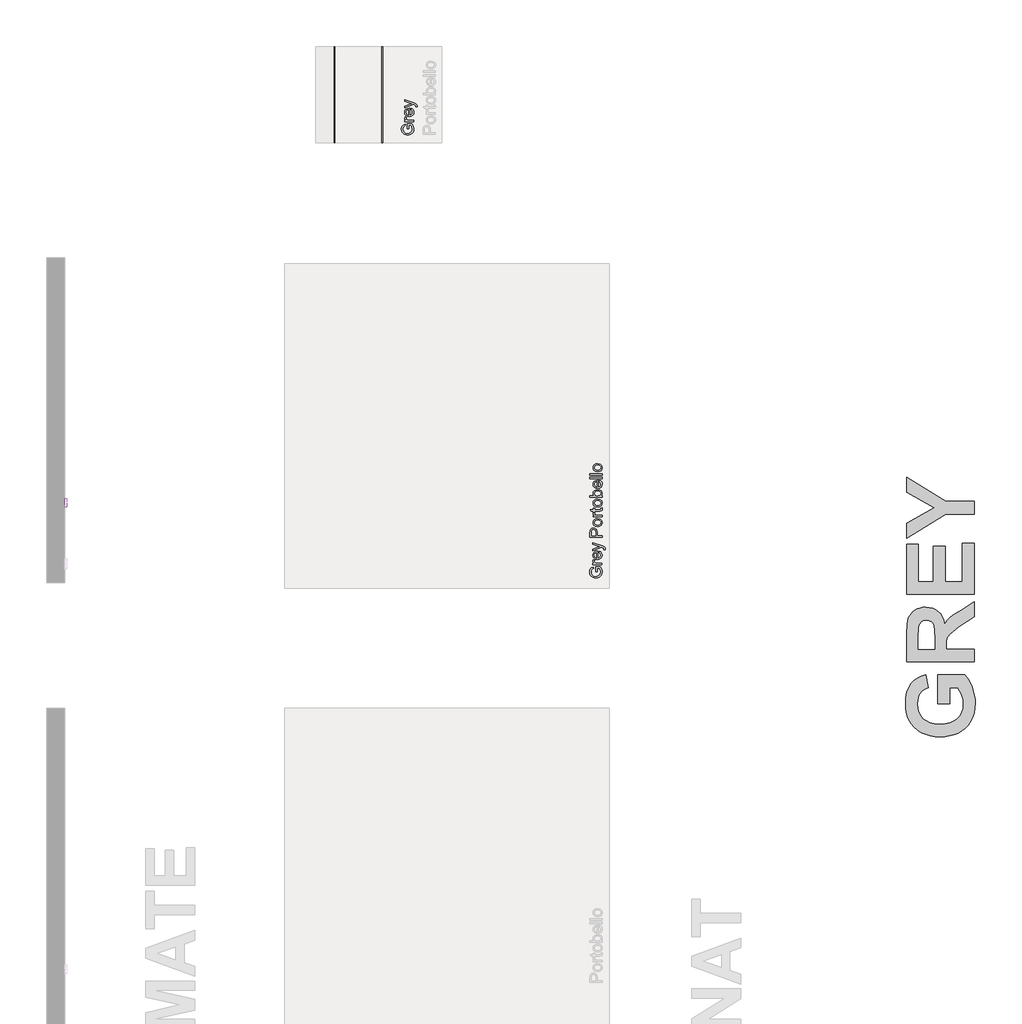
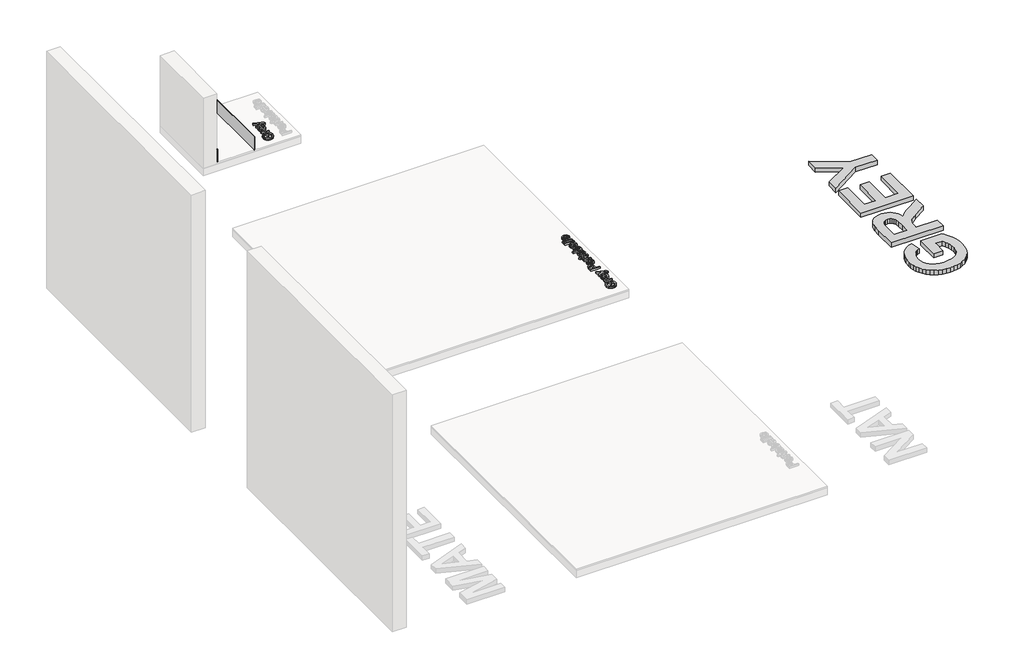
# One storey, part 7 of 8: 7 proxies.
"""IFC4 building model written with IfcOpenShell, lengths in millimetres."""

from ifc_helpers import new_model, si_unit, point, frame, frame_2d, origin, origin_with_axes, place, context, project, spatial, polyline, circle_curve, trimmed, segment, composite_curve, outline, extrude, transform, mapped, element, save
from components import generic_models_04e9f25f

model = new_model("IFC4")

# Units and contexts
model_context = context("Model", 3, world=origin())
ifc_project = project(units=[si_unit("LENGTHUNIT", "METRE", prefix="MILLI")], contexts=[model_context])

# Site, building, storey
site = spatial("IfcSite", under=ifc_project)
building = spatial("IfcBuilding", under=site)
storey = spatial("IfcBuildingStorey", under=building, Name="PORTOBELLO - SHOWROOM", Elevation=0.0)

# Proxies
placement = place(None, origin())
element("IfcBuildingElementProxy", 1, Name="RODAPE V STONE GREY 15X80 NAT RET", ObjectType="RODAPE V STONE GREY 15X80 NAT RET", at=placement, inside=storey, context=model_context, shape_type="SweptSolid", body=[
    extrude(outline(composite_curve([segment(polyline([(167.0, -5572.2594677), (17.0, -5572.2594677), (17.0, -5563.2594677), (158.0, -5563.2594677)]), True, "CONTINUOUS"), segment(trimmed(circle_curve(frame_2d((158.0, -5572.2594677)), 9.0), [point((158.0, -5563.2594677))], [point((167.0, -5572.2594677))], False, "CARTESIAN"), True, "CONTINUOUS")], self_intersect=False)), frame((0.0, 9366.8641954, 0.0), z_axis=(0.0, 1.0, 0.0), x_axis=(0.0, 0.0, 1.0)), (0.0, 0.0, 1.0), 800.0),
])
generic_models_shape = generic_models_04e9f25f(model_context)
element("IfcBuildingElementProxy", 2, Name="PORTOBELLO - RODAPE V STONE GREY 15X80 NAT RET (BASE NA LINHA) : GREY 15X80 NAT RET", ObjectType="PORTOBELLO - RODAPE V STONE GREY 15X80 NAT RET (BASE NA LINHA) : GREY 15X80 NAT RET", at=placement, inside=storey, context=model_context, shape_type="MappedRepresentation", body=[
    mapped(generic_models_shape, transform((-5172.2594677, 9366.8641954, 17.0), x_axis=(0.0, 1.0, 0.0), y_axis=(-1.0, 0.0, 0.0), z_axis=(0.0, 0.0, 1.0))),
])
element("IfcBuildingElementProxy", 3, Name="10mm Arial", ObjectType="10mm Arial", at=placement, inside=storey, context=model_context, shape_type="SweptSolid", body=[
    extrude(outline(polyline([(-3382.1813288, 5799.5594233), (-3394.7383676, 5799.5594233), (-3394.7383676, 5840.3697993), (-3357.1898786, 5840.3697993), (-3345.3440783, 5820.2221287), (-3341.3709528, 5798.9217612), (-3342.9497797, 5784.8349465), (-3347.6862604, 5772.1031638), (-3355.414848, 5761.5265564), (-3365.9699955, 5753.9052677), (-3378.6312675, 5749.2975458), (-3392.6782284, 5747.7616384), (-3406.8263568, 5749.2914144), (-3419.9873352, 5753.8807423), (-3431.0268607, 5761.3395497), (-3438.8106306, 5771.4777644), (-3443.4275496, 5783.8263367), (-3444.9665226, 5797.9162171), (-3441.3980673, 5817.5611156), (-3431.4652534, 5831.332165), (-3414.84925, 5838.9227968), (-3411.5873629, 5827.3467767), (-3423.2001712, 5821.6200803), (-3429.8956236, 5811.8344193), (-3432.4094839, 5797.7200134), (-3429.6994198, 5781.6435702), (-3422.5870346, 5770.7052122), (-3412.9117381, 5764.2427518), (-3393.1932632, 5760.3186772), (-3371.3042845, 5765.0398295), (-3358.2076854, 5778.7740906), (-3353.9279916, 5797.9162171), (-3357.1530904, 5815.0963063), (-3364.0324837, 5827.8127606), (-3382.1813288, 5827.8127606), (-3382.1813288, 5799.5594233)])), frame((0.0, 0.0, 17.0), z_axis=(0.0, 0.0, 1.0), x_axis=(1.0, 0.0, 0.0)), (0.0, 0.0, 1.0), 20.0),
    extrude(outline(polyline([(-3342.9405826, 5859.2053575), (-3416.7131854, 5859.2053575), (-3416.7131854, 5870.1927664), (-3405.7993529, 5870.1927664), (-3415.8547941, 5877.9918647), (-3418.2828152, 5885.840014), (-3414.4077916, 5898.4461037), (-3403.1506025, 5894.2522489), (-3405.7257765, 5885.423081), (-3403.2487044, 5878.3229585), (-3396.3815738, 5873.79801), (-3381.7153449, 5871.7623963), (-3342.9405826, 5871.7623963), (-3342.9405826, 5859.2053575)])), frame((0.0, 0.0, 17.0), z_axis=(0.0, 0.0, 1.0), x_axis=(1.0, 0.0, 0.0)), (0.0, 0.0, 1.0), 20.0),
    extrude(outline(polyline([(-3364.9154005, 5957.944885), (-3363.3457706, 5970.2566691), (-3354.069013, 5965.8206254), (-3347.1344374, 5958.7419627), (-3342.8118239, 5949.1800965), (-3341.3709528, 5937.2944423), (-3343.8572219, 5922.5607684), (-3351.3160294, 5911.2238716), (-3363.2629972, 5903.9949904), (-3379.2137474, 5901.5853633), (-3395.7009921, 5904.0195159), (-3408.0311703, 5911.3219735), (-3415.719904, 5922.5055861), (-3418.2828152, 5936.5832038), (-3415.7260354, 5950.2224288), (-3408.0556958, 5961.1209329), (-3395.750043, 5968.2670407), (-3379.2873238, 5970.6490766), (-3375.9028094, 5970.5755002), (-3375.9028094, 5914.1424021), (-3366.5034244, 5916.3159716), (-3359.5933743, 5921.365152), (-3355.3443372, 5928.6522811), (-3353.9279916, 5937.539697), (-3356.5522165, 5949.8514811), (-3364.9154005, 5957.944885)]), holes=[polyline([(-3388.4598482, 5914.1424021), (-3388.4598482, 5958.0920378), (-3399.8396646, 5953.0643172), (-3404.2542485, 5945.7434655), (-3405.7257765, 5936.5341529), (-3401.0291497, 5921.0708464), (-3395.5385109, 5916.205607), (-3388.4598482, 5914.1424021)])]), frame((0.0, 0.0, 17.0), z_axis=(0.0, 0.0, 1.0), x_axis=(1.0, 0.0, 0.0)), (0.0, 0.0, 1.0), 20.0),
    extrude(outline(polyline([(-3314.6872454, 5983.2061153), (-3326.7783003, 5981.6364855), (-3325.6746543, 5988.0131067), (-3327.0603432, 5993.9727951), (-3330.9231041, 5997.6270896), (-3340.1692049, 6001.0606548), (-3343.2103628, 6002.0416735), (-3416.7131854, 5975.3579661), (-3416.7131854, 5988.5771925), (-3375.7311311, 6002.752912), (-3359.3481196, 6007.6825308), (-3373.8426702, 6012.6121495), (-3416.7131854, 6027.155751), (-3416.7131854, 6040.2768755), (-3341.1747491, 6014.5987123), (-3324.7917375, 6007.9277854), (-3315.9380442, 6000.6437219), (-3313.1176156, 5990.8825863), (-3314.6872454, 5983.2061153)])), frame((0.0, 0.0, 17.0), z_axis=(0.0, 0.0, 1.0), x_axis=(1.0, 0.0, 0.0)), (0.0, 0.0, 1.0), 20.0),
])
element("IfcBuildingElementProxy", 4, Name="10mm Arial", ObjectType="10mm Arial", at=placement, inside=storey, context=model_context, shape_type="SweptSolid", body=[
    extrude(outline(polyline([(-3340.9818111, 6087.5679022), (-3441.4381213, 6087.5679022), (-3441.4381213, 6124.7975601), (-3440.4816281, 6139.8071455), (-3435.7850013, 6152.008565), (-3426.0729166, 6159.9180279), (-3412.3754436, 6162.9101348), (-3400.5357748, 6160.8898495), (-3390.6704059, 6154.8289936), (-3384.0117418, 6143.4951625), (-3381.7921871, 6125.6559514), (-3381.7921871, 6100.124941), (-3340.9818111, 6100.124941), (-3340.9818111, 6087.5679022)]), holes=[polyline([(-3394.3492259, 6100.124941), (-3394.3492259, 6126.3917154), (-3398.9600135, 6144.883917), (-3404.5089003, 6148.9858013), (-3411.9339852, 6150.353096), (-3422.332783, 6147.1279972), (-3428.0226912, 6138.6544486), (-3428.8810825, 6126.0974098), (-3428.8810825, 6100.124941), (-3394.3492259, 6100.124941)])]), frame((0.0, 0.0, 17.0), z_axis=(0.0, 0.0, 1.0), x_axis=(1.0, 0.0, 0.0)), (0.0, 0.0, 1.0), 20.0),
    extrude(outline(polyline([(-3377.8681125, 6175.4671736), (-3395.655207, 6178.183369), (-3408.1570634, 6186.3319552), (-3414.2822986, 6196.3996591), (-3416.3240437, 6208.4539258), (-3413.8377746, 6221.645561), (-3406.3789671, 6232.1823145), (-3394.5362326, 6239.0892989), (-3378.8981821, 6241.3916271), (-3356.5554822, 6237.3203997), (-3343.9126043, 6225.4623367), (-3339.4121813, 6208.4539258), (-3341.8892534, 6195.1028751), (-3349.3204697, 6184.5783843), (-3361.4115246, 6177.7449763), (-3377.8681125, 6175.4671736)]), holes=[polyline([(-3377.892638, 6188.0242123), (-3366.52815, 6189.4773462), (-3358.4316804, 6193.8367479), (-3353.5848351, 6200.3973101), (-3351.96922, 6208.4539258), (-3353.5940322, 6216.4737533), (-3358.4684686, 6223.0220528), (-3366.6722371, 6227.3814545), (-3378.2850454, 6228.8345883), (-3389.3184396, 6227.3722574), (-3397.3045446, 6222.9852646), (-3402.1513899, 6216.427768), (-3403.767005, 6208.4539258), (-3402.1575212, 6200.3973101), (-3397.32907, 6193.8367479), (-3389.2509946, 6189.4773462), (-3377.892638, 6188.0242123)])]), frame((0.0, 0.0, 17.0), z_axis=(0.0, 0.0, 1.0), x_axis=(1.0, 0.0, 0.0)), (0.0, 0.0, 1.0), 20.0),
    extrude(outline(polyline([(-3340.9818111, 6255.5182957), (-3414.7544139, 6255.5182957), (-3414.7544139, 6266.5057046), (-3403.8405813, 6266.5057046), (-3413.8960226, 6274.3048029), (-3416.3240437, 6282.1529522), (-3412.44902, 6294.7590419), (-3401.191831, 6290.5651871), (-3403.767005, 6281.7360192), (-3401.2899329, 6274.6358967), (-3394.4228023, 6270.1109482), (-3379.7565734, 6268.0753345), (-3340.9818111, 6268.0753345), (-3340.9818111, 6255.5182957)])), frame((0.0, 0.0, 17.0), z_axis=(0.0, 0.0, 1.0), x_axis=(1.0, 0.0, 0.0)), (0.0, 0.0, 1.0), 20.0),
    extrude(outline(polyline([(-3351.4541852, 6329.2908985), (-3340.6139291, 6330.8605283), (-3339.4121813, 6321.4672747), (-3341.4968459, 6310.9458497), (-3346.9660249, 6305.6973999), (-3361.2153208, 6304.1768209), (-3402.1973751, 6304.1768209), (-3402.1973751, 6294.7590419), (-3412.44902, 6294.7590419), (-3414.7544139, 6294.7590419), (-3414.7544139, 6304.1768209), (-3432.6825298, 6304.1768209), (-3440.0646951, 6316.7338597), (-3414.7544139, 6316.7338597), (-3414.7544139, 6329.2908985), (-3402.1973751, 6329.2908985), (-3402.1973751, 6316.7338597), (-3361.5832028, 6316.7338597), (-3355.1084797, 6317.3960473), (-3352.8153486, 6319.5420256), (-3351.96922, 6323.8217195), (-3351.4541852, 6329.2908985)])), frame((0.0, 0.0, 17.0), z_axis=(0.0, 0.0, 1.0), x_axis=(1.0, 0.0, 0.0)), (0.0, 0.0, 1.0), 20.0),
    extrude(outline(polyline([(-3377.8681125, 6338.7086776), (-3395.655207, 6341.424873), (-3408.1570634, 6349.5734592), (-3414.2822986, 6359.6411631), (-3416.3240437, 6371.6954298), (-3413.8377746, 6384.887065), (-3406.3789671, 6395.4238185), (-3394.5362326, 6402.3308029), (-3378.8981821, 6404.6331311), (-3356.5554822, 6400.5619037), (-3343.9126043, 6388.7038407), (-3339.4121813, 6371.6954298), (-3341.8892534, 6358.3443791), (-3349.3204697, 6347.8198883), (-3361.4115246, 6340.9864802), (-3377.8681125, 6338.7086776)]), holes=[polyline([(-3377.892638, 6351.2657163), (-3366.52815, 6352.7188502), (-3358.4316804, 6357.0782519), (-3353.5848351, 6363.6388141), (-3351.96922, 6371.6954298), (-3353.5940322, 6379.7152573), (-3358.4684686, 6386.2635568), (-3366.6722371, 6390.6229584), (-3378.2850454, 6392.0760923), (-3389.3184396, 6390.6137614), (-3397.3045446, 6386.2267686), (-3402.1513899, 6379.669272), (-3403.767005, 6371.6954298), (-3402.1575212, 6363.6388141), (-3397.32907, 6357.0782519), (-3389.2509946, 6352.7188502), (-3377.892638, 6351.2657163)])]), frame((0.0, 0.0, 17.0), z_axis=(0.0, 0.0, 1.0), x_axis=(1.0, 0.0, 0.0)), (0.0, 0.0, 1.0), 20.0),
    extrude(outline(polyline([(-3340.9818111, 6431.3168385), (-3340.9818111, 6418.7597997), (-3441.4381213, 6418.7597997), (-3441.4381213, 6431.3168385), (-3404.1839379, 6431.3168385), (-3413.2890173, 6440.1092182), (-3416.3240437, 6451.0353134), (-3413.5894542, 6463.6168777), (-3405.9007205, 6473.3780133), (-3393.9445557, 6479.3744898), (-3378.9717585, 6481.5449936), (-3362.2086022, 6479.2978477), (-3349.7374026, 6472.5564101), (-3341.9934866, 6462.6634502), (-3339.4121813, 6450.961737), (-3342.7415133, 6439.7965185), (-3352.7295095, 6431.3168385), (-3340.9818111, 6431.3168385)]), holes=[polyline([(-3378.3831473, 6431.3168385), (-3360.8229134, 6434.7504038), (-3354.1826434, 6441.3293601), (-3351.96922, 6449.8826165), (-3353.6001635, 6457.1298918), (-3358.4929941, 6463.3225721), (-3366.6170548, 6467.5716091), (-3377.9416889, 6468.9879548), (-3389.4318699, 6467.6298571), (-3397.4639601, 6463.555564), (-3402.1912437, 6457.5560218), (-3403.767005, 6450.4221768), (-3402.1360614, 6443.1749015), (-3397.2432309, 6436.9822212), (-3389.266323, 6432.7331842), (-3378.3831473, 6431.3168385)])]), frame((0.0, 0.0, 17.0), z_axis=(0.0, 0.0, 1.0), x_axis=(1.0, 0.0, 0.0)), (0.0, 0.0, 1.0), 20.0),
    extrude(outline(polyline([(-3362.956629, 6547.3222943), (-3361.3869991, 6559.6340784), (-3352.1102415, 6555.1980347), (-3345.1756659, 6548.1193719), (-3340.8530524, 6538.5575058), (-3339.4121813, 6526.6718516), (-3341.8984504, 6511.9381777), (-3349.3572579, 6500.6012809), (-3361.3042257, 6493.3723997), (-3377.2549758, 6490.9627726), (-3393.7422206, 6493.3969252), (-3406.0723988, 6500.6993828), (-3413.7611325, 6511.8829954), (-3416.3240437, 6525.9606131), (-3413.7672639, 6539.5998381), (-3406.0969243, 6550.4983422), (-3393.7912715, 6557.6444499), (-3377.3285522, 6560.0264859), (-3373.9440379, 6559.9529095), (-3373.9440379, 6503.5198114), (-3364.5446529, 6505.6933809), (-3357.6346028, 6510.7425612), (-3353.3855657, 6518.0296904), (-3351.96922, 6526.9171063), (-3354.5934449, 6539.2288904), (-3362.956629, 6547.3222943)]), holes=[polyline([(-3386.5010766, 6503.5198114), (-3386.5010766, 6547.4694471), (-3397.880893, 6542.4417265), (-3402.295477, 6535.1208748), (-3403.767005, 6525.9115622), (-3399.0703781, 6510.4482556), (-3393.5797394, 6505.5830163), (-3386.5010766, 6503.5198114)])]), frame((0.0, 0.0, 17.0), z_axis=(0.0, 0.0, 1.0), x_axis=(1.0, 0.0, 0.0)), (0.0, 0.0, 1.0), 20.0),
    extrude(outline(polyline([(-3340.9818111, 6572.5835246), (-3441.4381213, 6572.5835246), (-3441.4381213, 6585.1405634), (-3340.9818111, 6585.1405634), (-3340.9818111, 6572.5835246)])), frame((0.0, 0.0, 17.0), z_axis=(0.0, 0.0, 1.0), x_axis=(1.0, 0.0, 0.0)), (0.0, 0.0, 1.0), 20.0),
    extrude(outline(polyline([(-3340.9818111, 6603.9761215), (-3441.4381213, 6603.9761215), (-3441.4381213, 6616.5331603), (-3340.9818111, 6616.5331603), (-3340.9818111, 6603.9761215)])), frame((0.0, 0.0, 17.0), z_axis=(0.0, 0.0, 1.0), x_axis=(1.0, 0.0, 0.0)), (0.0, 0.0, 1.0), 20.0),
    extrude(outline(polyline([(-3377.8681125, 6632.2294588), (-3395.655207, 6634.9456542), (-3408.1570634, 6643.0942404), (-3414.2822986, 6653.1619443), (-3416.3240437, 6665.216211), (-3413.8377746, 6678.4078462), (-3406.3789671, 6688.9445997), (-3394.5362326, 6695.8515842), (-3378.8981821, 6698.1539123), (-3356.5554822, 6694.0826849), (-3343.9126043, 6682.2246219), (-3339.4121813, 6665.216211), (-3341.8892534, 6651.8651603), (-3349.3204697, 6641.3406695), (-3361.4115246, 6634.5072615), (-3377.8681125, 6632.2294588)]), holes=[polyline([(-3377.892638, 6644.7864975), (-3366.52815, 6646.2396314), (-3358.4316804, 6650.5990331), (-3353.5848351, 6657.1595953), (-3351.96922, 6665.216211), (-3353.5940322, 6673.2360385), (-3358.4684686, 6679.784338), (-3366.6722371, 6684.1437397), (-3378.2850454, 6685.5968735), (-3389.3184396, 6684.1345426), (-3397.3045446, 6679.7475498), (-3402.1513899, 6673.1900533), (-3403.767005, 6665.216211), (-3402.1575212, 6657.1595953), (-3397.32907, 6650.5990331), (-3389.2509946, 6646.2396314), (-3377.892638, 6644.7864975)])]), frame((0.0, 0.0, 17.0), z_axis=(0.0, 0.0, 1.0), x_axis=(1.0, 0.0, 0.0)), (0.0, 0.0, 1.0), 20.0),
])
element("IfcBuildingElementProxy", 5, Name="10mm Arial", ObjectType="10mm Arial", at=placement, inside=storey, context=model_context, shape_type="SweptSolid", body=[
    extrude(outline(polyline([(-4946.5002138, 9482.829147), (-4959.0572526, 9482.829147), (-4959.0572526, 9523.639523), (-4921.5087636, 9523.639523), (-4909.6629634, 9503.4918524), (-4905.6898378, 9482.1914849), (-4907.2686647, 9468.1046702), (-4912.0051454, 9455.3728874), (-4919.733733, 9444.7962801), (-4930.2888806, 9437.1749914), (-4942.9501526, 9432.5672694), (-4956.9971134, 9431.0313621), (-4971.1452418, 9432.5611381), (-4984.3062202, 9437.1504659), (-4995.3457457, 9444.6092734), (-5003.1295156, 9454.747488), (-5007.7464346, 9467.0960604), (-5009.2854077, 9481.1859408), (-5005.7169523, 9500.8308393), (-4995.7841384, 9514.6018887), (-4979.168135, 9522.1925205), (-4975.906248, 9510.6165004), (-4987.5190563, 9504.889804), (-4994.2145086, 9495.1041429), (-4996.7283689, 9480.989737), (-4994.0183049, 9464.9132938), (-4986.9059196, 9453.9749359), (-4977.2306231, 9447.5124755), (-4957.5121482, 9443.5884009), (-4935.6231695, 9448.3095531), (-4922.5265705, 9462.0438143), (-4918.2468766, 9481.1859408), (-4921.4719754, 9498.3660299), (-4928.3513687, 9511.0824842), (-4946.5002138, 9511.0824842), (-4946.5002138, 9482.829147)])), frame((0.0, 0.0, 18.0), z_axis=(0.0, 0.0, 1.0), x_axis=(1.0, 0.0, 0.0)), (0.0, 0.0, 1.0), 20.0),
    extrude(outline(polyline([(-4907.2594677, 9542.4750812), (-4981.0320704, 9542.4750812), (-4981.0320704, 9553.4624901), (-4970.1182379, 9553.4624901), (-4980.1736791, 9561.2615884), (-4982.6017003, 9569.1097376), (-4978.7266766, 9581.7158273), (-4967.4694875, 9577.5219726), (-4970.0446615, 9568.6928047), (-4967.5675894, 9561.5926822), (-4960.7004588, 9557.0677336), (-4946.03423, 9555.0321199), (-4907.2594677, 9555.0321199), (-4907.2594677, 9542.4750812)])), frame((0.0, 0.0, 18.0), z_axis=(0.0, 0.0, 1.0), x_axis=(1.0, 0.0, 0.0)), (0.0, 0.0, 1.0), 20.0),
    extrude(outline(polyline([(-4929.2342855, 9641.2146087), (-4927.6646557, 9653.5263928), (-4918.387898, 9649.090349), (-4911.4533224, 9642.0116863), (-4907.130709, 9632.4498201), (-4905.6898378, 9620.564166), (-4908.176107, 9605.8304921), (-4915.6349144, 9594.4935953), (-4927.5818822, 9587.2647141), (-4943.5326324, 9584.855087), (-4960.0198771, 9587.2892395), (-4972.3500553, 9594.5916971), (-4980.038789, 9605.7753098), (-4982.6017003, 9619.8529275), (-4980.0449204, 9633.4921525), (-4972.3745808, 9644.3906566), (-4960.0689281, 9651.5367643), (-4943.6062088, 9653.9188002), (-4940.2216944, 9653.8452238), (-4940.2216944, 9597.4121258), (-4930.8223095, 9599.5856952), (-4923.9122593, 9604.6348756), (-4919.6632223, 9611.9220048), (-4918.2468766, 9620.8094207), (-4920.8711015, 9633.1212048), (-4929.2342855, 9641.2146087)]), holes=[polyline([(-4952.7787332, 9597.4121258), (-4952.7787332, 9641.3617615), (-4964.1585496, 9636.3340409), (-4968.5731335, 9629.0131892), (-4970.0446615, 9619.8038765), (-4965.3480347, 9604.34057), (-4959.8573959, 9599.4753306), (-4952.7787332, 9597.4121258)])]), frame((0.0, 0.0, 18.0), z_axis=(0.0, 0.0, 1.0), x_axis=(1.0, 0.0, 0.0)), (0.0, 0.0, 1.0), 20.0),
    extrude(outline(polyline([(-4879.0061304, 9666.475839), (-4891.0971853, 9664.9062092), (-4889.9935394, 9671.2828304), (-4891.3792282, 9677.2425187), (-4895.2419892, 9680.8968132), (-4904.48809, 9684.3303785), (-4907.5292478, 9685.3113972), (-4981.0320704, 9658.6276898), (-4981.0320704, 9671.8469161), (-4940.0500162, 9686.0226357), (-4923.6670047, 9690.9522544), (-4938.1615553, 9695.8818732), (-4981.0320704, 9710.4254747), (-4981.0320704, 9723.5465992), (-4905.4936341, 9697.8684359), (-4889.1106226, 9691.1975091), (-4880.2569292, 9683.9134456), (-4877.4365006, 9674.15231), (-4879.0061304, 9666.475839)])), frame((0.0, 0.0, 18.0), z_axis=(0.0, 0.0, 1.0), x_axis=(1.0, 0.0, 0.0)), (0.0, 0.0, 1.0), 20.0),
])
element("IfcBuildingElementProxy", 6, Name="10mm Arial", ObjectType="10mm Arial", at=placement, inside=storey, context=model_context, shape_type="SweptSolid", body=[
    extrude(outline(polyline([(6167.850383, 2518.4745677), (6167.850383, 2618.9308778), (6205.0800409, 2618.9308778), (6220.0896263, 2617.9743846), (6232.2910458, 2613.2777578), (6240.2005087, 2603.5656731), (6243.1926156, 2589.8682002), (6241.1723303, 2578.0285313), (6235.1114745, 2568.1631625), (6223.7776433, 2561.5044984), (6205.9384322, 2559.2849437), (6180.4074218, 2559.2849437), (6180.4074218, 2518.4745677), (6167.850383, 2518.4745677)]), holes=[polyline([(6180.4074218, 2571.8419824), (6206.6741962, 2571.8419824), (6225.1663979, 2576.4527701), (6229.2682821, 2582.0016569), (6230.6355769, 2589.4267418), (6227.410478, 2599.8255395), (6218.9369294, 2605.5154477), (6206.3798906, 2606.373839), (6180.4074218, 2606.373839), (6180.4074218, 2571.8419824)])]), frame((-7810.2594677, 0.0, 0.0), z_axis=(1.0, 0.0, 0.0), x_axis=(0.0, 1.0, 0.0)), (0.0, 0.0, 1.0), 20.0),
    extrude(outline(polyline([(6255.7496544, 2555.360869), (6258.4658498, 2573.1479635), (6266.614436, 2585.64982), (6276.6821399, 2591.7750552), (6288.7364066, 2593.8168003), (6301.9280418, 2591.3305311), (6312.4647953, 2583.8717237), (6319.3717798, 2572.0289891), (6321.6741079, 2556.3909386), (6317.6028805, 2534.0482388), (6305.7448175, 2521.4053609), (6288.7364066, 2516.9049378), (6275.3853559, 2519.3820099), (6264.8608651, 2526.8132262), (6258.0274571, 2538.9042811), (6255.7496544, 2555.360869)]), holes=[polyline([(6268.3066932, 2555.3853945), (6269.759827, 2544.0209065), (6274.1192287, 2535.924437), (6280.6797909, 2531.0775917), (6288.7364066, 2529.4619766), (6296.7562341, 2531.0867887), (6303.3045336, 2535.9612252), (6307.6639353, 2544.1649937), (6309.1170692, 2555.777802), (6307.6547382, 2566.8111961), (6303.2677454, 2574.7973011), (6296.7102489, 2579.6441464), (6288.7364066, 2581.2597615), (6280.6797909, 2579.6502778), (6274.1192287, 2574.8218266), (6269.759827, 2566.7437511), (6268.3066932, 2555.3853945)])]), frame((-7810.2594677, 0.0, 0.0), z_axis=(1.0, 0.0, 0.0), x_axis=(0.0, 1.0, 0.0)), (0.0, 0.0, 1.0), 20.0),
    extrude(outline(polyline([(6335.8007765, 2518.4745677), (6335.8007765, 2592.2471704), (6346.7881855, 2592.2471704), (6346.7881855, 2581.3333379), (6354.5872838, 2591.3887791), (6362.435433, 2593.8168003), (6375.0415227, 2589.9417766), (6370.847668, 2578.6845875), (6362.0185001, 2581.2597615), (6354.9183776, 2578.7826894), (6350.393429, 2571.9155588), (6348.3578153, 2557.24933), (6348.3578153, 2518.4745677), (6335.8007765, 2518.4745677)])), frame((-7810.2594677, 0.0, 0.0), z_axis=(1.0, 0.0, 0.0), x_axis=(0.0, 1.0, 0.0)), (0.0, 0.0, 1.0), 20.0),
    extrude(outline(polyline([(6409.5733793, 2528.9469418), (6411.1430092, 2518.1066857), (6401.7497555, 2516.9049378), (6391.2283305, 2518.9896025), (6385.9798807, 2524.4587815), (6384.4593018, 2538.7080774), (6384.4593018, 2579.6901317), (6375.0415227, 2579.6901317), (6375.0415227, 2589.9417766), (6375.0415227, 2592.2471704), (6384.4593018, 2592.2471704), (6384.4593018, 2610.1752863), (6397.0163405, 2617.5574517), (6397.0163405, 2592.2471704), (6409.5733793, 2592.2471704), (6409.5733793, 2579.6901317), (6397.0163405, 2579.6901317), (6397.0163405, 2539.0759594), (6397.6785281, 2532.6012363), (6399.8245064, 2530.3081052), (6404.1042003, 2529.4619766), (6409.5733793, 2528.9469418)])), frame((-7810.2594677, 0.0, 0.0), z_axis=(1.0, 0.0, 0.0), x_axis=(0.0, 1.0, 0.0)), (0.0, 0.0, 1.0), 20.0),
    extrude(outline(polyline([(6418.9911584, 2555.360869), (6421.7073538, 2573.1479635), (6429.85594, 2585.64982), (6439.9236439, 2591.7750552), (6451.9779106, 2593.8168003), (6465.1695458, 2591.3305311), (6475.7062993, 2583.8717237), (6482.6132838, 2572.0289891), (6484.9156119, 2556.3909386), (6480.8443845, 2534.0482388), (6468.9863215, 2521.4053609), (6451.9779106, 2516.9049378), (6438.6268599, 2519.3820099), (6428.1023691, 2526.8132262), (6421.2689611, 2538.9042811), (6418.9911584, 2555.360869)]), holes=[polyline([(6431.5481972, 2555.3853945), (6433.001331, 2544.0209065), (6437.3607327, 2535.924437), (6443.9212949, 2531.0775917), (6451.9779106, 2529.4619766), (6459.9977381, 2531.0867887), (6466.5460376, 2535.9612252), (6470.9054393, 2544.1649937), (6472.3585732, 2555.777802), (6470.8962422, 2566.8111961), (6466.5092494, 2574.7973011), (6459.9517529, 2579.6441464), (6451.9779106, 2581.2597615), (6443.9212949, 2579.6502778), (6437.3607327, 2574.8218266), (6433.001331, 2566.7437511), (6431.5481972, 2555.3853945)])]), frame((-7810.2594677, 0.0, 0.0), z_axis=(1.0, 0.0, 0.0), x_axis=(0.0, 1.0, 0.0)), (0.0, 0.0, 1.0), 20.0),
    extrude(outline(polyline([(6511.5993193, 2518.4745677), (6499.0422805, 2518.4745677), (6499.0422805, 2618.9308778), (6511.5993193, 2618.9308778), (6511.5993193, 2581.6766944), (6520.391699, 2590.7817738), (6531.3177943, 2593.8168003), (6543.8993585, 2591.0822108), (6553.6604941, 2583.3934771), (6559.6569706, 2571.4373122), (6561.8274744, 2556.464515), (6559.5803285, 2539.7013588), (6552.838891, 2527.2301591), (6542.945931, 2519.4862431), (6531.2442179, 2516.9049378), (6520.0789993, 2520.2342699), (6511.5993193, 2530.222266), (6511.5993193, 2518.4745677)]), holes=[polyline([(6511.5993193, 2555.8759038), (6515.0328846, 2538.3156699), (6521.6118409, 2531.6753999), (6530.1650973, 2529.4619766), (6537.4123726, 2531.0929201), (6543.6050529, 2535.9857506), (6547.8540899, 2544.1098114), (6549.2704356, 2555.4344454), (6547.9123379, 2566.9246264), (6543.8380448, 2574.9567167), (6537.8385026, 2579.6840003), (6530.7046576, 2581.2597615), (6523.4573823, 2579.628818), (6517.264702, 2574.7359875), (6513.015665, 2566.7590795), (6511.5993193, 2555.8759038)])]), frame((-7810.2594677, 0.0, 0.0), z_axis=(1.0, 0.0, 0.0), x_axis=(0.0, 1.0, 0.0)), (0.0, 0.0, 1.0), 20.0),
    extrude(outline(polyline([(6627.6047751, 2540.4493855), (6639.9165592, 2538.8797557), (6635.4805155, 2529.602998), (6628.4018528, 2522.6684224), (6618.8399866, 2518.345809), (6606.9543325, 2516.9049378), (6592.2206586, 2519.391207), (6580.8837617, 2526.8500144), (6573.6548805, 2538.7969822), (6571.2452535, 2554.7477324), (6573.679406, 2571.2349771), (6580.9818636, 2583.5651553), (6592.1654763, 2591.253889), (6606.2430939, 2593.8168003), (6619.8823189, 2591.2600204), (6630.780823, 2583.5896808), (6637.9269308, 2571.2840281), (6640.3089667, 2554.8213088), (6640.2353903, 2551.4367944), (6583.8022922, 2551.4367944), (6585.9758617, 2542.0374095), (6591.0250421, 2535.1273593), (6598.3121713, 2530.8783223), (6607.1995871, 2529.4619766), (6619.5113712, 2532.0862015), (6627.6047751, 2540.4493855)]), holes=[polyline([(6583.8022922, 2563.9938332), (6627.7519279, 2563.9938332), (6622.7242073, 2575.3736496), (6615.4033556, 2579.7882335), (6606.194043, 2581.2597615), (6590.7307365, 2576.5631347), (6585.8654971, 2571.0724959), (6583.8022922, 2563.9938332)])]), frame((-7810.2594677, 0.0, 0.0), z_axis=(1.0, 0.0, 0.0), x_axis=(0.0, 1.0, 0.0)), (0.0, 0.0, 1.0), 20.0),
    extrude(outline(polyline([(-7790.2594677, 6665.4230442), (-7790.2594677, 6652.8660055), (-7810.2594677, 6652.8660055), (-7810.2594677, 6665.4230442), (-7790.2594677, 6665.4230442)])), frame((0.0, 0.0, 2518.4745677), z_axis=(0.0, 0.0, 1.0), x_axis=(1.0, 0.0, 0.0)), (0.0, 0.0, 1.0), 100.4563101),
    extrude(outline(polyline([(-7790.2594677, 6696.8156411), (-7790.2594677, 6684.2586024), (-7810.2594677, 6684.2586024), (-7810.2594677, 6696.8156411), (-7790.2594677, 6696.8156411)])), frame((0.0, 0.0, 2518.4745677), z_axis=(0.0, 0.0, 1.0), x_axis=(1.0, 0.0, 0.0)), (0.0, 0.0, 1.0), 100.4563101),
    extrude(outline(polyline([(6712.5119396, 2555.360869), (6715.228135, 2573.1479635), (6723.3767212, 2585.64982), (6733.4444251, 2591.7750552), (6745.4986918, 2593.8168003), (6758.6903271, 2591.3305311), (6769.2270805, 2583.8717237), (6776.134065, 2572.0289891), (6778.4363931, 2556.3909386), (6774.3651657, 2534.0482388), (6762.5071028, 2521.4053609), (6745.4986918, 2516.9049378), (6732.1476411, 2519.3820099), (6721.6231504, 2526.8132262), (6714.7897423, 2538.9042811), (6712.5119396, 2555.360869)]), holes=[polyline([(6725.0689784, 2555.3853945), (6726.5221123, 2544.0209065), (6730.8815139, 2535.924437), (6737.4420761, 2531.0775917), (6745.4986918, 2529.4619766), (6753.5185193, 2531.0867887), (6760.0668189, 2535.9612252), (6764.4262205, 2544.1649937), (6765.8793544, 2555.777802), (6764.4170234, 2566.8111961), (6760.0300307, 2574.7973011), (6753.4725341, 2579.6441464), (6745.4986918, 2581.2597615), (6737.4420761, 2579.6502778), (6730.8815139, 2574.8218266), (6726.5221123, 2566.7437511), (6725.0689784, 2555.3853945)])]), frame((-7810.2594677, 0.0, 0.0), z_axis=(1.0, 0.0, 0.0), x_axis=(0.0, 1.0, 0.0)), (0.0, 0.0, 1.0), 20.0),
])
element("IfcBuildingElementProxy", 7, Name="550mm Arial", ObjectType="550mm Arial", at=placement, inside=storey, context=model_context, shape_type="SweptSolid", body=[
    extrude(outline(polyline([(-452.08675, 4702.5320391), (-550.0640416, 4702.5320391), (-550.0640416, 4943.0217548), (-326.2750006, 4943.0217548), (-309.3351235, 4923.5202377), (-293.4477368, 4900.0871035), (-264.8304349, 4841.4259837), (-253.2312944, 4808.0594273), (-244.9461941, 4774.4841126), (-239.9751339, 4740.7000394), (-238.3181138, 4706.7072077), (-240.6231548, 4664.8076504), (-247.5382779, 4625.6741424), (-259.0634831, 4589.3066835), (-275.1987704, 4555.705274), (-295.6179547, 4525.4874907), (-319.994851, 4499.2709107), (-348.3294593, 4477.055534), (-380.6217795, 4458.8413607), (-415.6453559, 4444.6544855), (-452.1737327, 4434.5210032), (-490.2069098, 4428.4409138), (-529.7448873, 4426.4142173), (-572.2315777, 4428.706211), (-612.2914514, 4435.5821919), (-649.9245082, 4447.0421601), (-685.1307482, 4463.0861155), (-717.1447239, 4483.5487912), (-745.2009875, 4508.2649199), (-769.2995392, 4537.2345017), (-789.4403789, 4570.4575366), (-801.6179542, 4599.0400455), (-810.3162223, 4630.9278963), (-815.5351832, 4666.1210889), (-817.2748368, 4704.6196234), (-814.4652962, 4753.8909629), (-806.0366744, 4797.4649368), (-791.9889715, 4835.3415451), (-772.3221874, 4867.5207879), (-747.6973905, 4894.2375183), (-718.7756491, 4915.7265895), (-685.5569633, 4931.9880017), (-648.0413331, 4943.0217548), (-630.2272801, 4836.1374367), (-649.8027324, 4828.5090556), (-667.1949194, 4818.1494183), (-682.4038412, 4805.0585248), (-695.4294976, 4789.2363752), (-705.8717684, 4770.9787105), (-713.3305333, 4750.5812719), (-717.8057922, 4728.0440593), (-719.2975452, 4703.3670728), (-716.3836254, 4666.3907352), (-707.641866, 4633.3982044), (-693.072267, 4604.3894804), (-672.6748283, 4579.3645631), (-646.5365328, 4559.210676), (-614.744363, 4544.8150423), (-577.2983189, 4536.1776621), (-534.1984006, 4533.2985354), (-487.8148861, 4536.1602656), (-447.6158402, 4544.7454562), (-413.6012629, 4559.0541072), (-385.7711542, 4579.0862186), (-364.1255141, 4603.7632051), (-348.6643426, 4632.0064815), (-339.3876397, 4663.8160479), (-336.2954054, 4699.1919041), (-339.6877299, 4735.8811989), (-349.8647036, 4772.7444589), (-364.8779143, 4807.0678248), (-382.77895, 4836.1374367), (-452.08675, 4836.1374367), (-452.08675, 4702.5320391)])), origin_with_axes(), (0.0, 0.0, 1.0), 50.0),
    extrude(outline(polyline([(-247.2251403, 5049.9060729), (-808.3678103, 5049.9060729), (-808.3678103, 5285.9422753), (-804.5753654, 5362.8349651), (-793.1980308, 5415.3725042), (-784.1344354, 5434.5434871), (-772.1134289, 5451.6964717), (-757.1350113, 5466.8314582), (-739.1991826, 5479.9484464), (-719.0800885, 5490.5429369), (-697.551875, 5498.1104302), (-674.6145421, 5502.6509261), (-650.2680898, 5504.1644247), (-619.9198325, 5501.9768103), (-592.3376244, 5495.4139671), (-567.5214656, 5484.475895), (-545.471356, 5469.162594), (-526.71789, 5449.4914608), (-511.791662, 5425.4798917), (-500.692672, 5397.127887), (-493.4209199, 5364.4354464), (-471.0837674, 5395.4360738), (-446.6590307, 5420.5218789), (-411.2744762, 5446.4775109), (-356.0578704, 5480.0876187), (-247.2251403, 5548.6995573), (-247.2251403, 5423.8620139), (-375.4028186, 5342.585397), (-451.4604747, 5278.7749024), (-464.6644456, 5261.0652286), (-472.9625933, 5242.3117626), (-477.3465205, 5217.4173194), (-478.8078295, 5181.2847138), (-478.8078295, 5156.7903909), (-247.2251403, 5156.7903909), (-247.2251403, 5049.9060729)]), holes=[polyline([(-576.7851211, 5156.7903909), (-576.7851211, 5244.88645), (-578.4029989, 5314.420405), (-583.2566325, 5351.8403542), (-592.0592798, 5370.8721648), (-605.5241988, 5385.2417036), (-623.2860622, 5394.2705059), (-644.9795428, 5397.2801066), (-669.0041592, 5393.3136964), (-687.914194, 5381.4144657), (-701.2573372, 5362.2782759), (-708.5812789, 5336.6009886), (-710.3905187, 5249.7574801), (-710.3905187, 5156.7903909), (-576.7851211, 5156.7903909)])]), origin_with_axes(), (0.0, 0.0, 1.0), 50.0),
    extrude(outline(polyline([(-247.2251403, 5611.0487428), (-808.3678103, 5611.0487428), (-808.3678103, 6029.6789887), (-710.3905187, 6029.6789887), (-710.3905187, 5717.9330609), (-585.6921476, 5717.9330609), (-585.6921476, 6011.8649357), (-487.714856, 6011.8649357), (-487.714856, 5717.9330609), (-345.2024319, 5717.9330609), (-345.2024319, 6038.5860152), (-247.2251403, 6038.5860152), (-247.2251403, 5611.0487428)])), origin_with_axes(), (0.0, 0.0, 1.0), 50.0),
    extrude(outline(polyline([(-247.2251403, 6279.0757309), (-483.400515, 6279.0757309), (-808.3678103, 6078.6676345), (-808.3678103, 6202.5309718), (-578.0376717, 6332.3787177), (-808.3678103, 6462.3656357), (-808.3678103, 6586.3681454), (-482.5654813, 6385.960049), (-247.2251403, 6385.960049), (-247.2251403, 6279.0757309)])), origin_with_axes(), (0.0, 0.0, 1.0), 50.0),
])

save(model, "model.ifc")
